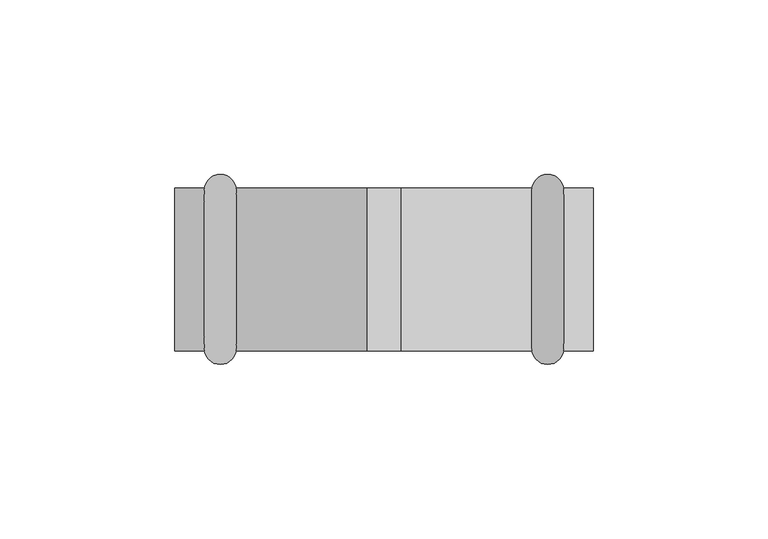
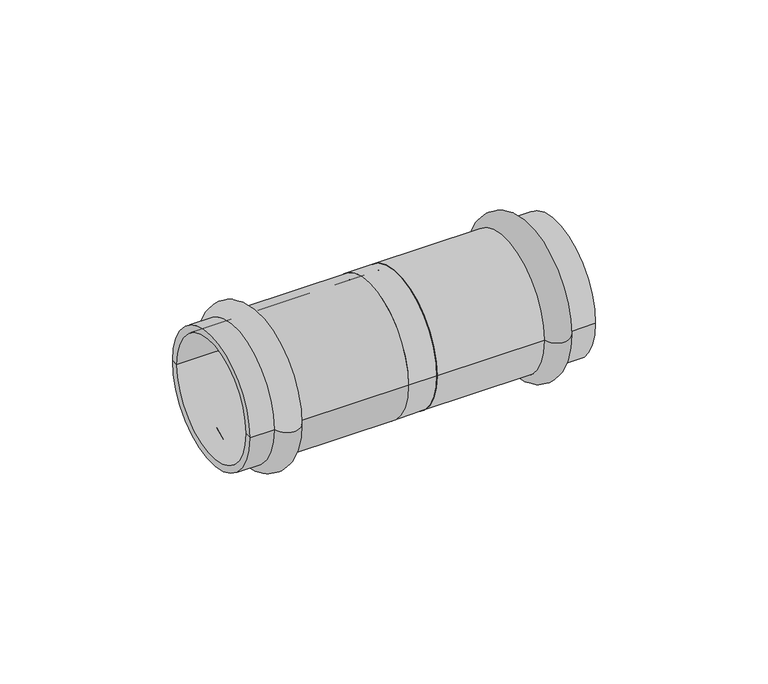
"""IFC4 building model written with IfcOpenShell, lengths in millimetres: pipe fitting geometry, VALTEC_VTi.904.I_Удлинитель_Нержавеющая сталь : VTi.904.I."""

from ifc_helpers import new_model, si_unit, point, frame, origin, origin_2d, place, context, project, spatial, polyline, circle_curve, ellipse_curve, trimmed, segment, composite_curve, outline, extrude, source, transform, mapped, element, save
from ifc_brep_helpers import plane_surface, cylinder_surface, revolved_surface, advanced_brep


def pipe_fitting_5075fde0(model_context):
    return source(origin(), model_context, "Body", "SolidModel", [
        advanced_brep(
        [(51.4464272, -23.35, 0.0), (42.3535728, -23.35, 0.0), (42.3535728, 23.35, 0.0), (51.4464272, 23.35, 0.0), (60.0, -23.35, 0.0), (60.0, 23.35, 0.0), (60.0, -21.0, 0.0), (60.0, 21.0, 0.0), (5.0, -21.0, 0.0), (5.0, 21.0, 0.0), (5.0, -23.35, 0.0), (5.0, 23.35, 0.0)],
        [
            (0, 1, circle_curve(frame((46.9, -22.65, 0.0), z_axis=(0.0, 0.0, -1.0), x_axis=(-1.0, 0.0, 0.0)), 4.6)),
            (1, 2, circle_curve(frame((42.3535728, 0.0, 0.0), z_axis=(1.0, 0.0, 0.0), x_axis=(0.0, 1.0, 0.0)), 23.35)),
            (2, 3, circle_curve(frame((46.9, 22.65, 0.0), z_axis=(0.0, 0.0, -1.0), x_axis=(-1.0, 0.0, 0.0)), 4.6)),
            (3, 0, circle_curve(frame((51.4464272, 0.0, 0.0), z_axis=(-1.0, 0.0, 0.0), x_axis=(0.0, 1.0, 0.0)), 23.35)),
            (2, 1, circle_curve(frame((42.3535728, 0.0, 0.0), z_axis=(1.0, 0.0, 0.0), x_axis=(0.0, 1.0, 0.0)), 23.35)),
            (0, 3, circle_curve(frame((51.4464272, 0.0, 0.0), z_axis=(-1.0, 0.0, 0.0), x_axis=(0.0, 1.0, 0.0)), 23.35)),
            (4, 0),
            (3, 5),
            (5, 4, circle_curve(frame((60.0, 0.0, 0.0), z_axis=(-1.0, 0.0, 0.0), x_axis=(0.0, 1.0, 0.0)), 23.35)),
            (4, 5, circle_curve(frame((60.0, 0.0, 0.0), z_axis=(-1.0, 0.0, 0.0), x_axis=(0.0, 1.0, 0.0)), 23.35)),
            (6, 4),
            (5, 7),
            (7, 6, circle_curve(frame((60.0, 0.0, 0.0), z_axis=(-1.0, 0.0, 0.0), x_axis=(0.0, 1.0, 0.0)), 21.0)),
            (6, 7, circle_curve(frame((60.0, 0.0, 0.0), z_axis=(-1.0, 0.0, 0.0), x_axis=(0.0, 1.0, 0.0)), 21.0)),
            (8, 6),
            (7, 9),
            (9, 8, circle_curve(frame((5.0, 0.0, 0.0), z_axis=(-1.0, 0.0, 0.0), x_axis=(0.0, 1.0, 0.0)), 21.0)),
            (8, 9, circle_curve(frame((5.0, 0.0, 0.0), z_axis=(-1.0, 0.0, 0.0), x_axis=(0.0, 1.0, 0.0)), 21.0)),
            (10, 8),
            (9, 11),
            (11, 10, circle_curve(frame((5.0, 0.0, 0.0), z_axis=(-1.0, 0.0, 0.0), x_axis=(0.0, 1.0, 0.0)), 23.35)),
            (10, 11, circle_curve(frame((5.0, 0.0, 0.0), z_axis=(-1.0, 0.0, 0.0), x_axis=(0.0, 1.0, 0.0)), 23.35)),
            (1, 10),
            (11, 2),
        ],
        [
            revolved_surface(trimmed(ellipse_curve(frame((46.9, 22.65, 0.0), z_axis=(0.0, 0.0, -1.0), x_axis=(-1.0, 0.0, 0.0)), 4.6, 4.6), [point((42.3535728, 23.35, 0.0))], [point((51.4464272, 23.35, 0.0))], True, "CARTESIAN"), (63.5364426, 0.0, 0.0), (1.0, 0.0, 0.0)),
            cylinder_surface(frame((63.5364426, 0.0, 0.0), z_axis=(1.0, 0.0, 0.0), x_axis=(0.0, 1.0, 0.0)), 23.35),
            plane_surface(frame((60.0, 0.0, 0.0), z_axis=(1.0, 0.0, 0.0), x_axis=(0.0, 1.0, 0.0))),
            revolved_surface(polyline([(60.0, 21.0, 0.0), (5.0, 21.0, 0.0)]), (63.5364426, 0.0, 0.0), (1.0, 0.0, 0.0)),
            plane_surface(frame((5.0, 0.0, 0.0), z_axis=(-1.0, 0.0, 0.0), x_axis=(0.0, 1.0, 0.0))),
        ],
        [
            (0, [[1, 2, 3, 4]]),
            (0, [[-3, 5, -1, 6]]),
            (1, [[7, -4, 8, 9]]),
            (1, [[-8, -6, -7, 10]]),
            (2, [[11, -9, 12, 13]]),
            (2, [[-12, -10, -11, 14]]),
            (3, [[15, -13, 16, 17]]),
            (3, [[-16, -14, -15, 18]]),
            (4, [[19, -17, 20, 21]]),
            (4, [[-20, -18, -19, 22]]),
            (1, [[23, -21, 24, -2]]),
            (1, [[-24, -22, -23, -5]]),
        ],
    ),
        advanced_brep(
        [(-51.4464272, -23.35, 0.0), (-51.4464272, 23.35, 0.0), (-42.3535728, 23.35, 0.0), (-42.3535728, -23.35, 0.0), (-60.0, -23.35, 0.0), (-60.0, 23.35, 0.0), (-60.0, -21.0, 0.0), (-60.0, 21.0, 0.0), (-5.0, -21.0, 0.0), (-5.0, 21.0, 0.0), (-5.0, -23.35, 0.0), (-5.0, 23.35, 0.0)],
        [
            (0, 1, circle_curve(frame((-51.4464272, 0.0, 0.0), z_axis=(1.0, 0.0, 0.0), x_axis=(0.0, 1.0, 0.0)), 23.35)),
            (1, 2, circle_curve(frame((-46.9, 22.65, 0.0), z_axis=(0.0, 0.0, -1.0), x_axis=(1.0, 0.0, 0.0)), 4.6)),
            (2, 3, circle_curve(frame((-42.3535728, 0.0, 0.0), z_axis=(-1.0, 0.0, 0.0), x_axis=(0.0, 1.0, 0.0)), 23.35)),
            (3, 0, circle_curve(frame((-46.9, -22.65, 0.0), z_axis=(0.0, 0.0, -1.0), x_axis=(1.0, 0.0, 0.0)), 4.6)),
            (1, 0, circle_curve(frame((-51.4464272, 0.0, 0.0), z_axis=(1.0, 0.0, 0.0), x_axis=(0.0, 1.0, 0.0)), 23.35)),
            (3, 2, circle_curve(frame((-42.3535728, 0.0, 0.0), z_axis=(-1.0, 0.0, 0.0), x_axis=(0.0, 1.0, 0.0)), 23.35)),
            (4, 5, circle_curve(frame((-60.0, 0.0, 0.0), z_axis=(1.0, 0.0, 0.0), x_axis=(0.0, 1.0, 0.0)), 23.35)),
            (5, 1),
            (0, 4),
            (5, 4, circle_curve(frame((-60.0, 0.0, 0.0), z_axis=(1.0, 0.0, 0.0), x_axis=(0.0, 1.0, 0.0)), 23.35)),
            (6, 7, circle_curve(frame((-60.0, 0.0, 0.0), z_axis=(1.0, 0.0, 0.0), x_axis=(0.0, 1.0, 0.0)), 21.0)),
            (7, 5),
            (4, 6),
            (7, 6, circle_curve(frame((-60.0, 0.0, 0.0), z_axis=(1.0, 0.0, 0.0), x_axis=(0.0, 1.0, 0.0)), 21.0)),
            (8, 9, circle_curve(frame((-5.0, 0.0, 0.0), z_axis=(1.0, 0.0, 0.0), x_axis=(0.0, 1.0, 0.0)), 21.0)),
            (9, 7),
            (6, 8),
            (9, 8, circle_curve(frame((-5.0, 0.0, 0.0), z_axis=(1.0, 0.0, 0.0), x_axis=(0.0, 1.0, 0.0)), 21.0)),
            (10, 11, circle_curve(frame((-5.0, 0.0, 0.0), z_axis=(1.0, 0.0, 0.0), x_axis=(0.0, 1.0, 0.0)), 23.35)),
            (11, 9),
            (8, 10),
            (11, 10, circle_curve(frame((-5.0, 0.0, 0.0), z_axis=(1.0, 0.0, 0.0), x_axis=(0.0, 1.0, 0.0)), 23.35)),
            (2, 11),
            (10, 3),
        ],
        [
            revolved_surface(trimmed(ellipse_curve(frame((-46.9, 22.65, 0.0), z_axis=(0.0, 0.0, 1.0), x_axis=(1.0, 0.0, 0.0)), 4.6, 4.6), [point((-42.3535728, 23.35, 0.0))], [point((-51.4464272, 23.35, 0.0))], True, "CARTESIAN"), (-63.5364426, 0.0, 0.0), (-1.0, 0.0, 0.0)),
            cylinder_surface(frame((-63.5364426, 0.0, 0.0), z_axis=(-1.0, 0.0, 0.0), x_axis=(0.0, 1.0, 0.0)), 23.35),
            plane_surface(frame((-60.0, 0.0, 0.0), z_axis=(-1.0, 0.0, 0.0), x_axis=(0.0, 1.0, 0.0))),
            revolved_surface(polyline([(-60.0, 21.0, 0.0), (-5.0, 21.0, 0.0)]), (-63.5364426, 0.0, 0.0), (-1.0, 0.0, 0.0)),
            plane_surface(frame((-5.0, 0.0, 0.0), z_axis=(1.0, 0.0, 0.0), x_axis=(0.0, 1.0, 0.0))),
        ],
        [
            (0, [[1, 2, 3, 4]]),
            (0, [[5, -4, 6, -2]]),
            (1, [[7, 8, -1, 9]]),
            (1, [[10, -9, -5, -8]]),
            (2, [[11, 12, -7, 13]]),
            (2, [[14, -13, -10, -12]]),
            (3, [[15, 16, -11, 17]]),
            (3, [[18, -17, -14, -16]]),
            (4, [[19, 20, -15, 21]]),
            (4, [[22, -21, -18, -20]]),
            (1, [[-3, 23, -19, 24]]),
            (1, [[-6, -24, -22, -23]]),
        ],
    ),
        extrude(outline(composite_curve([segment(trimmed(circle_curve(origin_2d(), 23.35), [point((-23.35, 0.0))], [point((23.35, 0.0))], False, "CARTESIAN"), True, "CONTINUOUS"), segment(trimmed(circle_curve(origin_2d(), 23.35), [point((23.35, 0.0))], [point((-23.35, 0.0))], False, "CARTESIAN"), True, "CONTINUOUS")], self_intersect=False), holes=[composite_curve([segment(trimmed(circle_curve(origin_2d(), 21.0), [point((-21.0, 0.0))], [point((21.0, 0.0))], True, "CARTESIAN"), True, "CONTINUOUS"), segment(trimmed(circle_curve(origin_2d(), 21.0), [point((21.0, 0.0))], [point((-21.0, 0.0))], True, "CARTESIAN"), True, "CONTINUOUS")], self_intersect=False)]), frame((-5.0, 0.0, 0.0), z_axis=(1.0, 0.0, 0.0), x_axis=(0.0, 1.0, 0.0)), (0.0, 0.0, 1.0), 10.0),
    ])


if __name__ == "__main__":
    model = new_model("IFC4")
    model_context = context("Model", 3, world=origin())
    ifc_project = project(units=[si_unit("LENGTHUNIT", "METRE", prefix="MILLI")], contexts=[model_context])
    site = spatial("IfcSite", under=ifc_project)
    building = spatial("IfcBuilding", under=site)
    placement = place(None, origin())
    pipe_fitting_shape = pipe_fitting_5075fde0(model_context)
    element("IfcPipeFitting", 1, ObjectType="VALTEC_VTi.904.I_Удлинитель_Нержавеющая сталь : VTi.904.I", at=placement, inside=building, context=model_context, shape_type="MappedRepresentation", body=[
        mapped(pipe_fitting_shape, transform((0.0, 0.0, 0.0), x_axis=(1.0, 0.0, 0.0), y_axis=(0.0, 1.0, 0.0), z_axis=(0.0, 0.0, 1.0))),
    ])
    save(model, "model.ifc")
